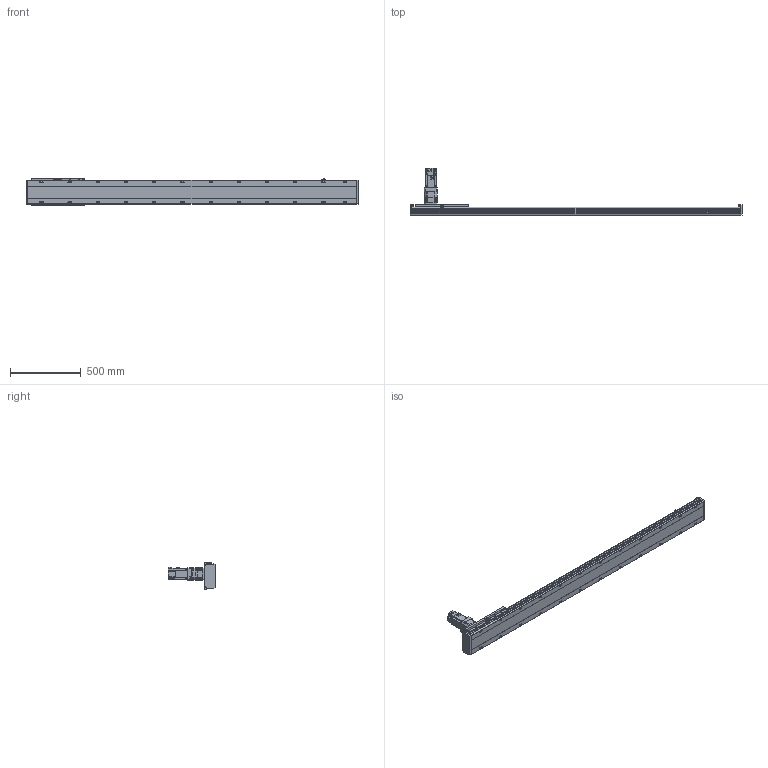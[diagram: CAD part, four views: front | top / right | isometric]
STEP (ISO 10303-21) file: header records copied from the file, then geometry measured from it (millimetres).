
FILE_DESCRIPTION(/* description */ ('STEP AP203'),/* implementation_level */ '2;1');
FILE_NAME(/* name */ 'SHS17A-L13-S1900-BC-T75-C1-N(0)',/* time_stamp */ '2023-03-27T08:57:49+02:00',/* author */ ('License CC BY-ND 4.0'),/* organization */ ('CADENAS'),/* preprocessor_version */ 'ST-DEVELOPER v19.3',/* originating_system */ 'PARTsolutions',/* authorisation */ ' ');
FILE_SCHEMA (('CONFIG_CONTROL_DESIGN'));
Length unit declared in the file: millimetre
Products named in the file (7): SHS17A-L13-S1900-BC-T75-C1-N(0); PSC140-sensor; SHS17A-S1900(0)_body2; T75-p1; SHS17A-S1900_body3; SHS17A-S1900-C1(0)_slider; SHS17A-S1900-C1(0)_body
Assembly tree (13 placements, depth 2):
  SHS17A-L13-S1900-BC-T75-C1-N(0)
    PSC140-sensor  x3
    SHS17A-S1900(0)_body2  x6
    T75-p1
    SHS17A-S1900_body3
    SHS17A-S1900-C1(0)_slider
    SHS17A-S1900-C1(0)_body
Bounding box: 2354 x 333.8 x 193.4 mm (x, y, z)
Volume: 17458073.5 mm3; surface area: 2049027 mm2
Topology: 13 solids, 13 shells, 2040 faces, 5171 edges, 3370 vertices
Faces by surface type: plane 1325, cylinder 634, cone 78, torus 3
Full cylindrical faces by diameter (mm): 2.8 x3, 4.134 x24, 4.5 x2, 4.6 x3, 4.917 x15, 5.5 x48, 6 x7, 6.5 x24, 6.647 x32, 6.8 x9, 8 x3, 8.5 x24, 10 x28, 11 x4, 14 x24, 22 x1, 24 x1, 24.2 x1, 28 x1, 28.2 x1, 28.8 x1, 29.8 x1, 48.542 x1, 68 x1, 70 x1, 78 x1, 80 x2
Entity records: 37836 total; most frequent: CARTESIAN_POINT 7248, DIRECTION 6223, ORIENTED_EDGE 5964, EDGE_CURVE 2982, AXIS2_PLACEMENT_3D 2178, VERTEX_POINT 2095, LINE 1867, VECTOR 1867
